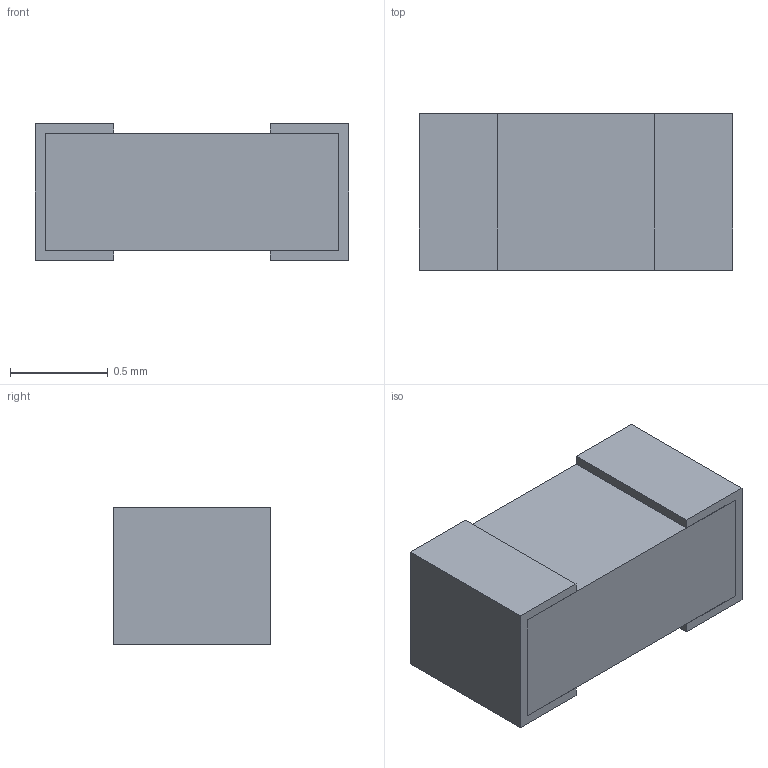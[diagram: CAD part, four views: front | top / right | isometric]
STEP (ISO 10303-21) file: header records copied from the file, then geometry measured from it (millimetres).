
FILE_DESCRIPTION(('STEP AP203'), '1');
FILE_NAME('Ð1-16-0,05', '', ('UNSPECIFIED'), ('UNSPECIFIED'), 'ASCON STEP Converter 1.6', 'ASCON Math Kernel', '');
FILE_SCHEMA(('CONFIG_CONTROL_DESIGN'));
Length unit declared in the file: millimetre
Bounding box: 1.6 x 0.8 x 0.7 mm (x, y, z)
Volume: 0.8 mm3; surface area: 10.1 mm2
Topology: 3 solids, 3 shells, 26 faces, 60 edges, 40 vertices
Faces by surface type: plane 26
Entity records: 988 total; most frequent: CARTESIAN_POINT 127, ORIENTED_EDGE 120, DIRECTION 114, EDGE_CURVE 60, LINE 60, VECTOR 60, VERTEX_POINT 40, COLOUR_RGB 29
